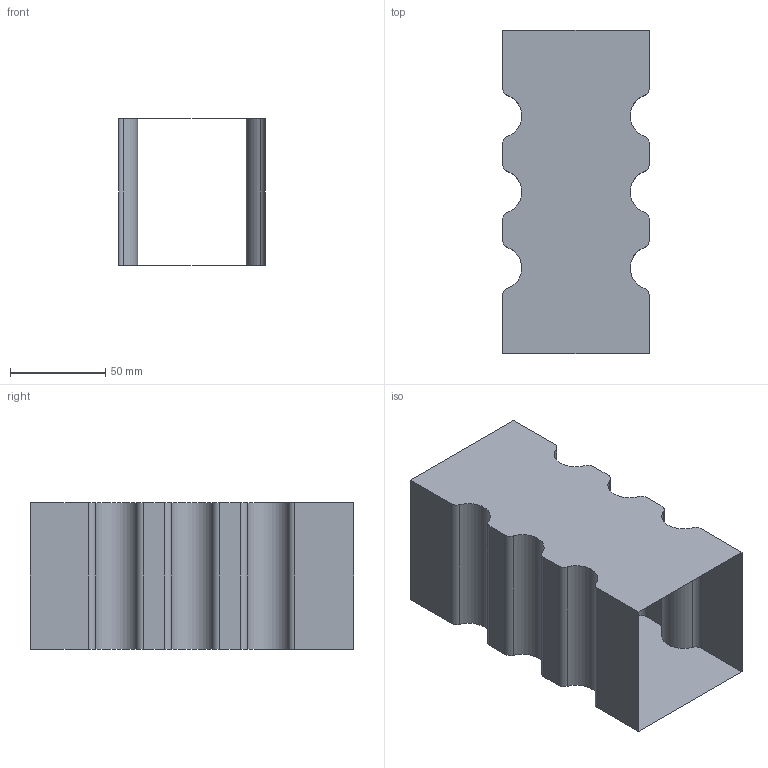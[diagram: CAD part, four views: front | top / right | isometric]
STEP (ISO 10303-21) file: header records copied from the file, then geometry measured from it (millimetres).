
FILE_DESCRIPTION(('HOOPS Exchange Step'),'2;1');
FILE_NAME('C:\Users\Mitchell Hortin\LocalDocs\Blogs\IGA_in_LSDYNA\crashbox.stp','2025-11-12T09:48:25-07:00',('Mitchell Hortin'),('Unknown organisation'),'HOOPS Exchange 2025.2','HOOPS Exchange','Unknown authorisation');
FILE_SCHEMA( ('AUTOMOTIVE_DESIGN { 1 0 10303 214 1 1 1 1 }') );
Length unit declared in the file: millimetre
Products named in the file (2): crashbox
Assembly tree (1 placements, depth 2):
  crashbox
    crashbox
Bounding box: 77 x 170 x 77 mm (x, y, z)
Surface area: 54155.2 mm2 (no closed solid volume)
Topology: 0 solids, 1 shells, 28 faces, 84 edges, 56 vertices
Faces by surface type: cylinder 18, plane 10
Entity records: 1003 total; most frequent: DIRECTION 180, CARTESIAN_POINT 170, ORIENTED_EDGE 160, EDGE_CURVE 84, AXIS2_PLACEMENT_3D 66, VERTEX_POINT 56, VECTOR 48, LINE 48
